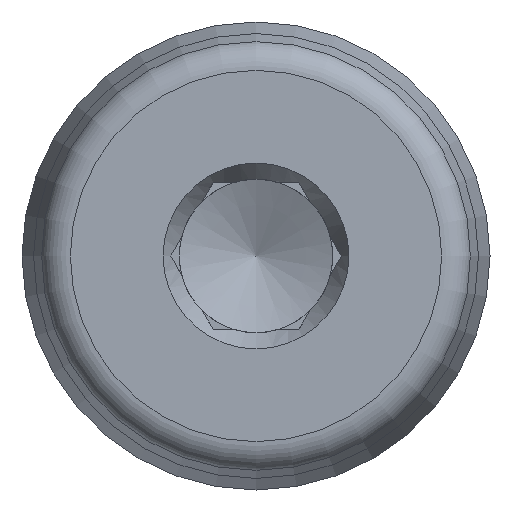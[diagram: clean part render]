
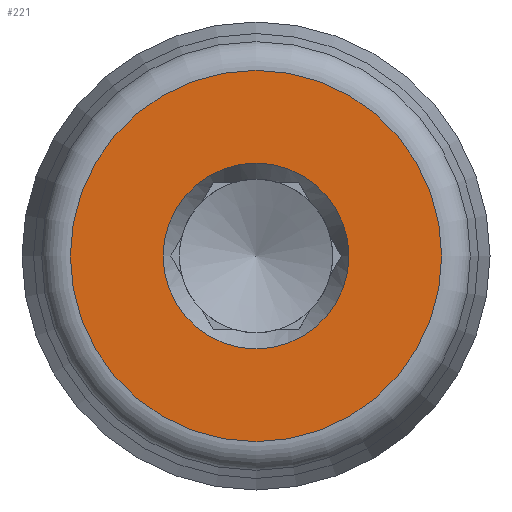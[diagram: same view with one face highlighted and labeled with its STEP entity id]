
A CAD part, left-side view. The second image highlights one B-rep face of the part: STEP entity #221.
In plain terms, the highlighted planar face has unit normal (-1, 0, 0).
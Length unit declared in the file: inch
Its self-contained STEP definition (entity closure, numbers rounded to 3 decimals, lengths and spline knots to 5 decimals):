
#70 = DIRECTION ( 'NONE',  ( 0., 0., 1. ) ) ;
#92 = FACE_OUTER_BOUND ( 'NONE', #1275, .T. ) ;
#126 = DIRECTION ( 'NONE',  ( 0., 0., -1. ) ) ;
#221 = ADVANCED_FACE ( 'NONE', ( #1097, #92 ), #984, .F. ) ;
#245 = VERTEX_POINT ( 'NONE', #574 ) ;
#318 = DIRECTION ( 'NONE',  ( 0., 0., -1. ) ) ;
#513 = DIRECTION ( 'NONE',  ( -1., 0., 0. ) ) ;
#574 = CARTESIAN_POINT ( 'NONE',  ( 0., 0., -0.2498 ) ) ;
#617 = EDGE_CURVE ( 'NONE', #245, #245, #907, .T. ) ;
#673 = VERTEX_POINT ( 'NONE', #1330 ) ;
#784 = DIRECTION ( 'NONE',  ( -1., 0., 0. ) ) ;
#808 = ORIENTED_EDGE ( 'NONE', *, *, #617, .T. ) ;
#822 = CARTESIAN_POINT ( 'NONE',  ( 0., 0., 0. ) ) ;
#907 = CIRCLE ( 'NONE', #1168, 0.2498 ) ;
#928 = ORIENTED_EDGE ( 'NONE', *, *, #1270, .F. ) ;
#984 = PLANE ( 'NONE',  #1263 ) ;
#993 = CIRCLE ( 'NONE', #1210, 0.125 ) ;
#1097 = FACE_BOUND ( 'NONE', #1135, .T. ) ;
#1135 = EDGE_LOOP ( 'NONE', ( #928 ) ) ;
#1168 = AXIS2_PLACEMENT_3D ( 'NONE', #822, #784, #126 ) ;
#1210 = AXIS2_PLACEMENT_3D ( 'NONE', #1394, #513, #70 ) ;
#1263 = AXIS2_PLACEMENT_3D ( 'NONE', #1426, #1316, #318 ) ;
#1270 = EDGE_CURVE ( 'NONE', #673, #673, #993, .T. ) ;
#1275 = EDGE_LOOP ( 'NONE', ( #808 ) ) ;
#1316 = DIRECTION ( 'NONE',  ( 1., 0., 0. ) ) ;
#1330 = CARTESIAN_POINT ( 'NONE',  ( 0., 0., 0.125 ) ) ;
#1394 = CARTESIAN_POINT ( 'NONE',  ( 0., 0., 0. ) ) ;
#1426 = CARTESIAN_POINT ( 'NONE',  ( 0., 0., 0. ) ) ;
